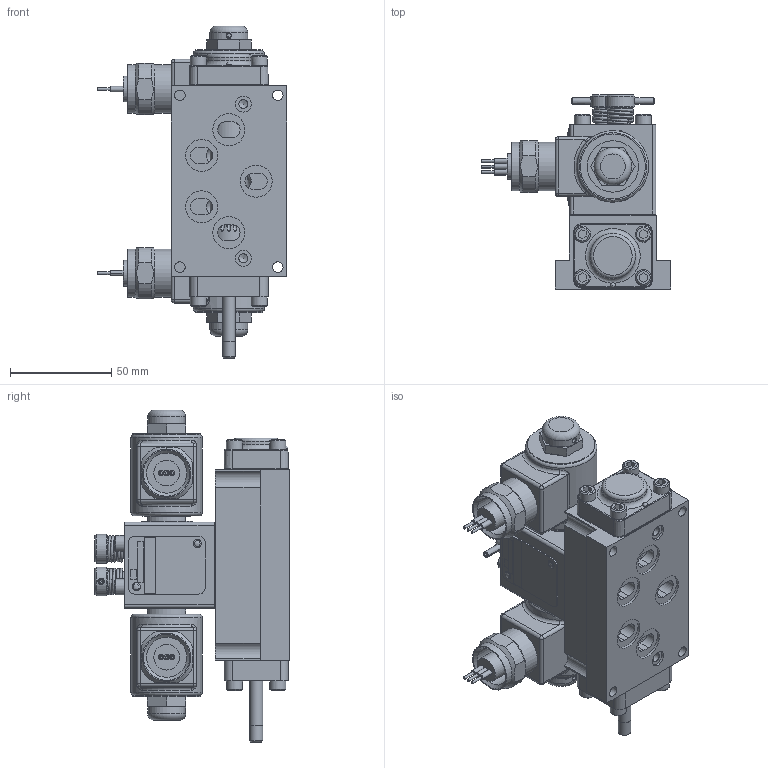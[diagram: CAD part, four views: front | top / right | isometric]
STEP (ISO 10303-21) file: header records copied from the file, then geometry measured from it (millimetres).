
FILE_DESCRIPTION(/* description */ (''),/* implementation_level */ '2;1');
FILE_NAME(/* name */ 'D:\Website New\Valves\Classic\SS\stp\SS3PMONLK.stp',/* time_stamp */ '2020-04-19T21:35:36-04:00',/* author */ ('RMcKenna'),/* organization */ (''),/* preprocessor_version */ 'ST-DEVELOPER v17',/* originating_system */ 'Autodesk Inventor 2018',/* authorisation */ '');
FILE_SCHEMA (('AUTOMOTIVE_DESIGN { 1 0 10303 214 3 1 1 }'));
Products named in the file (1): Part18
Bounding box: 93.59 x 96.16 x 164.11 mm (x, y, z)
Volume: 363070.8 mm3; surface area: 114253.6 mm2
Topology: 1 solids, 36 shells, 1617 faces, 4039 edges, 2632 vertices
Faces by surface type: plane 683, cylinder 409, cone 315, torus 117, bspline 82, sphere 11
Full cylindrical faces by diameter (mm): 1.041 x2, 1.321 x2, 1.346 x6, 1.397 x2, 2.07 x2, 2.261 x2, 2.35 x2, 2.381 x4, 2.718 x2, 2.769 x2, 2.778 x2, 3.048 x4, 3.175 x8, 3.302 x4, 3.683 x12, 3.912 x1, 3.962 x2, 4.366 x11, 4.369 x3, 4.826 x16, 5.105 x4, 5.156 x8, 5.159 x9, 5.537 x7, 5.639 x2, 6.35 x3, 6.629 x4, 7.671 x1, 7.925 x2, 7.938 x12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
Entity records: 58343 total; most frequent: CARTESIAN_POINT 18007, DIRECTION 8191, ORIENTED_EDGE 8010, EDGE_CURVE 4005, AXIS2_PLACEMENT_3D 3221, VERTEX_POINT 2636, EDGE_LOOP 1895, LINE 1749
